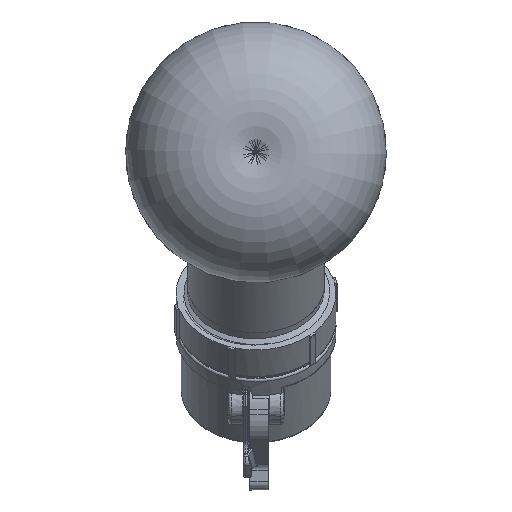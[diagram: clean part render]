
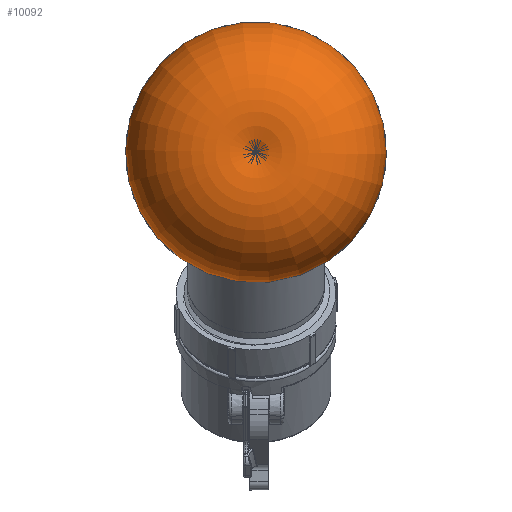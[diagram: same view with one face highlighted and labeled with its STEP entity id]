
A CAD part, top view. The second image highlights one B-rep face of the part: STEP entity #10092.
In plain terms, the highlighted toroidal (fillet/blend) face has major radius 28.194 mm and minor radius 62.738 mm.
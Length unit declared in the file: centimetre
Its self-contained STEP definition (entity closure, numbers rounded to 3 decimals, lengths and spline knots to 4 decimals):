
#1224=DEGENERATE_TOROIDAL_SURFACE('',#10729,2.8194,6.2738,.F.);
#1339=CIRCLE('',#10730,3.4544);
#1340=CIRCLE('',#10731,3.0432);
#2099=B_SPLINE_CURVE_WITH_KNOTS('',3,(#16666,#16667,#16668,#16669,#16670,
#16671,#16672,#16673,#16674,#16675),.UNSPECIFIED.,.F.,.U.,(4,2,2,2,4),(-1.8537,
-1.6161,-1.2358,-0.6274,0.),
 .UNSPECIFIED.);
#2100=B_SPLINE_CURVE_WITH_KNOTS('',3,(#16679,#16680,#16681,#16682,#16683,
#16684,#16685,#16686,#16687,#16688),.UNSPECIFIED.,.F.,.U.,(4,3,3,4),(0.,
1.3104,3.4072,3.7041),.UNSPECIFIED.);
#2101=B_SPLINE_CURVE_WITH_KNOTS('',3,(#16692,#16693,#16694,#16695,#16696,
#16697,#16698),.UNSPECIFIED.,.F.,.U.,(4,3,4),(14.798,15.7134,
18.5031),.UNSPECIFIED.);
#2561=VERTEX_POINT('',#15664);
#2579=VERTEX_POINT('',#16604);
#2580=VERTEX_POINT('',#16678);
#2581=VERTEX_POINT('',#16689);
#2582=VERTEX_POINT('',#16691);
#4342=EDGE_CURVE('',#2579,#2561,#2099,.F.);
#4343=EDGE_CURVE('',#2580,#2579,#1339,.T.);
#4344=EDGE_CURVE('',#2581,#2580,#2100,.T.);
#4345=EDGE_CURVE('',#2581,#2582,#1340,.T.);
#4346=EDGE_CURVE('',#2561,#2582,#2101,.T.);
#5837=ORIENTED_EDGE('',*,*,#4342,.F.);
#5838=ORIENTED_EDGE('',*,*,#4343,.F.);
#5839=ORIENTED_EDGE('',*,*,#4344,.F.);
#5840=ORIENTED_EDGE('',*,*,#4345,.T.);
#5841=ORIENTED_EDGE('',*,*,#4346,.F.);
#8637=EDGE_LOOP('',(#5837,#5838,#5839,#5840,#5841));
#9366=FACE_BOUND('',#8637,.T.);
#10092=ADVANCED_FACE('',(#9366),#1224,.T.);
#10729=AXIS2_PLACEMENT_3D('',#16676,#11830,$);
#10730=AXIS2_PLACEMENT_3D('',#16677,#11831,#11832);
#10731=AXIS2_PLACEMENT_3D('',#16690,#11833,#11834);
#11830=DIRECTION('',(0.,0.,1.));
#11831=DIRECTION('',(0.,0.,1.));
#11832=DIRECTION('',(0.,3.454,0.));
#11833=DIRECTION('',(0.,0.,1.));
#11834=DIRECTION('',(0.,3.043,0.));
#15664=CARTESIAN_POINT('',(-3.3614,0.1522,-2.6229));
#16604=CARTESIAN_POINT('',(-3.1921,1.3204,-1.5665));
#16666=CARTESIAN_POINT('',(-3.3614,0.1522,-2.6229));
#16667=CARTESIAN_POINT('',(-3.3596,0.2216,-2.6146));
#16668=CARTESIAN_POINT('',(-3.3567,0.2908,-2.6007));
#16669=CARTESIAN_POINT('',(-3.3462,0.4666,-2.5502));
#16670=CARTESIAN_POINT('',(-3.337,0.5705,-2.5054));
#16671=CARTESIAN_POINT('',(-3.3077,0.8249,-2.3549));
#16672=CARTESIAN_POINT('',(-3.2846,0.9628,-2.2304));
#16673=CARTESIAN_POINT('',(-3.2367,1.1876,-1.9305));
#16674=CARTESIAN_POINT('',(-3.212,1.2722,-1.7535));
#16675=CARTESIAN_POINT('',(-3.1921,1.3204,-1.5665));
#16676=CARTESIAN_POINT('',(0.,0.,-1.5665));
#16677=CARTESIAN_POINT('',(0.,0.,-1.5665));
#16678=CARTESIAN_POINT('',(3.3244,-0.9386,-1.5665));
#16679=CARTESIAN_POINT('',(2.7742,1.251,-3.8004));
#16680=CARTESIAN_POINT('',(2.9721,1.037,-3.5579));
#16681=CARTESIAN_POINT('',(3.1292,0.7964,-3.2954));
#16682=CARTESIAN_POINT('',(3.2367,0.5425,-3.0276));
#16683=CARTESIAN_POINT('',(3.4089,0.1363,-2.5992));
#16684=CARTESIAN_POINT('',(3.4564,-0.3079,-2.1532));
#16685=CARTESIAN_POINT('',(3.3693,-0.7509,-1.7397));
#16686=CARTESIAN_POINT('',(3.357,-0.8137,-1.6812));
#16687=CARTESIAN_POINT('',(3.342,-0.8762,-1.6234));
#16688=CARTESIAN_POINT('',(3.3244,-0.9386,-1.5665));
#16689=CARTESIAN_POINT('',(2.7742,1.251,-3.8004));
#16690=CARTESIAN_POINT('',(0.,0.,-3.8004));
#16691=CARTESIAN_POINT('',(-2.7742,1.251,-3.8004));
#16692=CARTESIAN_POINT('',(-3.3244,-0.9386,-1.5665));
#16693=CARTESIAN_POINT('',(-3.3787,-0.7463,-1.7421));
#16694=CARTESIAN_POINT('',(-3.4079,-0.5519,-1.9258));
#16695=CARTESIAN_POINT('',(-3.4117,-0.3592,-2.1132));
#16696=CARTESIAN_POINT('',(-3.4233,0.2279,-2.6843));
#16697=CARTESIAN_POINT('',(-3.1956,0.7952,-3.2839));
#16698=CARTESIAN_POINT('',(-2.7742,1.251,-3.8004));
